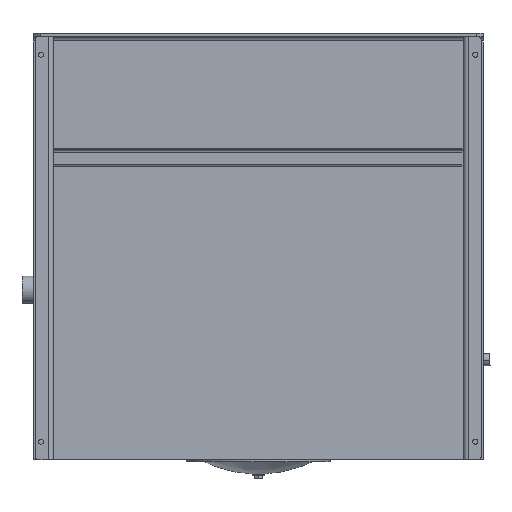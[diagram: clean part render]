
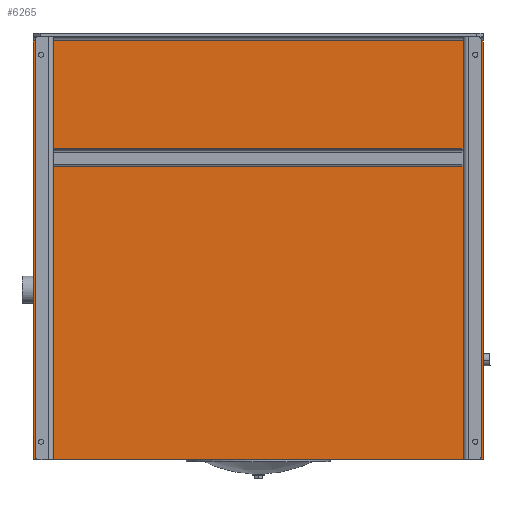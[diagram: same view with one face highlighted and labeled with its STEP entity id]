
A CAD part, front view. The second image highlights one B-rep face of the part: STEP entity #6265.
In plain terms, the highlighted planar face has unit normal (0, -1, 0).
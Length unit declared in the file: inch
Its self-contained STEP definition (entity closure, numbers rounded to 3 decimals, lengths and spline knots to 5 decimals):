
#198 = EDGE_CURVE ( 'NONE', #10634, #11989, #8313, .T. ) ;
#488 = VECTOR ( 'NONE', #7553, 39.37008 ) ;
#1812 = DIRECTION ( 'NONE',  ( -1., 0., 0. ) ) ;
#2085 = DIRECTION ( 'NONE',  ( 0., 0., -1. ) ) ;
#2108 = DIRECTION ( 'NONE',  ( 0., -1., 0. ) ) ;
#2272 = VECTOR ( 'NONE', #1812, 39.37008 ) ;
#2444 = VECTOR ( 'NONE', #8369, 39.37008 ) ;
#2951 = LINE ( 'NONE', #5801, #488 ) ;
#3461 = AXIS2_PLACEMENT_3D ( 'NONE', #4641, #2108, #2085 ) ;
#3636 = VERTEX_POINT ( 'NONE', #17965 ) ;
#4290 = DIRECTION ( 'NONE',  ( 0., 0., -1. ) ) ;
#4547 = CARTESIAN_POINT ( 'NONE',  ( 24.22465, -4.04495, 27.08184 ) ) ;
#4641 = CARTESIAN_POINT ( 'NONE',  ( -25.77535, -4.04495, -20.29316 ) ) ;
#5207 = PLANE ( 'NONE',  #3461 ) ;
#5801 = CARTESIAN_POINT ( 'NONE',  ( -25.77535, -4.04495, 26.23804 ) ) ;
#6265 = ADVANCED_FACE ( 'NONE', ( #14760 ), #5207, .T. ) ;
#7553 = DIRECTION ( 'NONE',  ( 1., 0., 0. ) ) ;
#8313 = LINE ( 'NONE', #4547, #11633 ) ;
#8369 = DIRECTION ( 'NONE',  ( 0., 0., 1. ) ) ;
#10092 = ORIENTED_EDGE ( 'NONE', *, *, #15201, .F. ) ;
#10384 = CARTESIAN_POINT ( 'NONE',  ( -25.77535, -4.04495, -20.29316 ) ) ;
#10634 = VERTEX_POINT ( 'NONE', #12935 ) ;
#11633 = VECTOR ( 'NONE', #4290, 39.37008 ) ;
#11989 = VERTEX_POINT ( 'NONE', #15003 ) ;
#12386 = LINE ( 'NONE', #10384, #2272 ) ;
#12935 = CARTESIAN_POINT ( 'NONE',  ( 24.22465, -4.04495, 26.23804 ) ) ;
#13049 = EDGE_LOOP ( 'NONE', ( #17438, #10092, #20245, #13862 ) ) ;
#13862 = ORIENTED_EDGE ( 'NONE', *, *, #16645, .F. ) ;
#14760 = FACE_OUTER_BOUND ( 'NONE', #13049, .T. ) ;
#15003 = CARTESIAN_POINT ( 'NONE',  ( 24.22465, -4.04495, -20.29316 ) ) ;
#15201 = EDGE_CURVE ( 'NONE', #3636, #10634, #2951, .T. ) ;
#15401 = LINE ( 'NONE', #18240, #2444 ) ;
#16645 = EDGE_CURVE ( 'NONE', #11989, #19490, #12386, .T. ) ;
#17438 = ORIENTED_EDGE ( 'NONE', *, *, #198, .F. ) ;
#17965 = CARTESIAN_POINT ( 'NONE',  ( -25.77535, -4.04495, 26.23804 ) ) ;
#18240 = CARTESIAN_POINT ( 'NONE',  ( -25.77535, -4.04495, 27.08184 ) ) ;
#19490 = VERTEX_POINT ( 'NONE', #19812 ) ;
#19812 = CARTESIAN_POINT ( 'NONE',  ( -25.77535, -4.04495, -20.29316 ) ) ;
#20104 = EDGE_CURVE ( 'NONE', #19490, #3636, #15401, .T. ) ;
#20245 = ORIENTED_EDGE ( 'NONE', *, *, #20104, .F. ) ;
